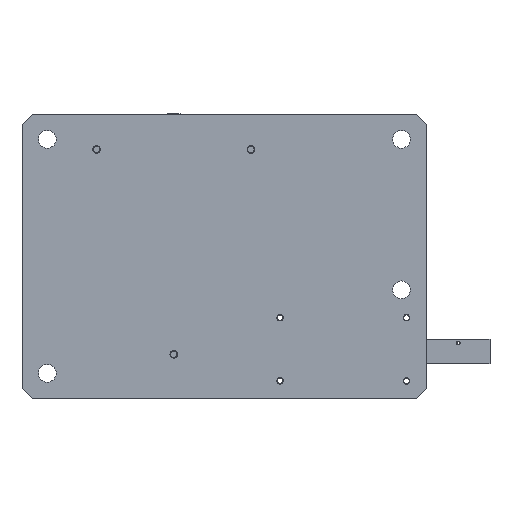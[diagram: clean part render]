
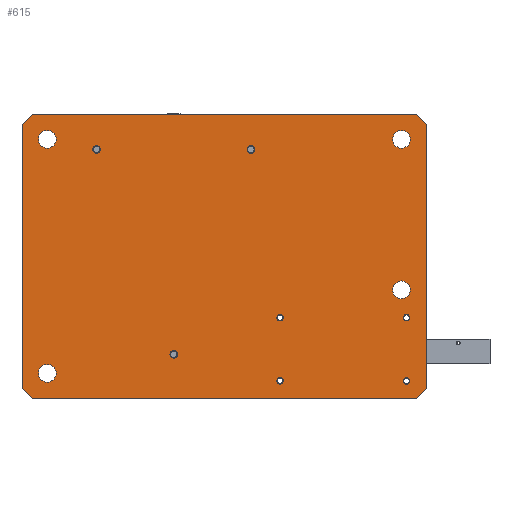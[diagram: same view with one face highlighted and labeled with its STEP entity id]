
A CAD part, front view. The second image highlights one B-rep face of the part: STEP entity #615.
In plain terms, the highlighted planar face has unit normal (0, -1, 0).
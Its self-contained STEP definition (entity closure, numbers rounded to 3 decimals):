
#2=CARTESIAN_POINT('',(44.,0.,-48.5));
#3=DIRECTION('',(0.,1.,0.));
#4=DIRECTION('',(1.,0.,0.));
#5=AXIS2_PLACEMENT_3D('',#2,#3,#4);
#7=CARTESIAN_POINT('',(44.,0.,-48.5));
#8=DIRECTION('',(0.,1.,0.));
#9=DIRECTION('',(-1.,0.,0.));
#10=AXIS2_PLACEMENT_3D('',#7,#8,#9);
#12=CARTESIAN_POINT('',(144.,0.,-48.5));
#13=DIRECTION('',(0.,1.,0.));
#14=DIRECTION('',(1.,0.,0.));
#15=AXIS2_PLACEMENT_3D('',#12,#13,#14);
#17=CARTESIAN_POINT('',(144.,0.,-48.5));
#18=DIRECTION('',(0.,1.,0.));
#19=DIRECTION('',(-1.,0.,0.));
#20=AXIS2_PLACEMENT_3D('',#17,#18,#19);
#22=CARTESIAN_POINT('',(44.,0.,-98.5));
#23=DIRECTION('',(0.,1.,0.));
#24=DIRECTION('',(1.,0.,0.));
#25=AXIS2_PLACEMENT_3D('',#22,#23,#24);
#27=CARTESIAN_POINT('',(44.,0.,-98.5));
#28=DIRECTION('',(0.,1.,0.));
#29=DIRECTION('',(-1.,0.,0.));
#30=AXIS2_PLACEMENT_3D('',#27,#28,#29);
#32=CARTESIAN_POINT('',(144.,0.,-98.5));
#33=DIRECTION('',(0.,1.,0.));
#34=DIRECTION('',(1.,0.,0.));
#35=AXIS2_PLACEMENT_3D('',#32,#33,#34);
#37=CARTESIAN_POINT('',(144.,0.,-98.5));
#38=DIRECTION('',(0.,1.,0.));
#39=DIRECTION('',(-1.,0.,0.));
#40=AXIS2_PLACEMENT_3D('',#37,#38,#39);
#42=CARTESIAN_POINT('',(-40.,0.,-77.5));
#43=DIRECTION('',(0.,1.,0.));
#44=DIRECTION('',(1.,0.,0.));
#45=AXIS2_PLACEMENT_3D('',#42,#43,#44);
#47=CARTESIAN_POINT('',(-40.,0.,-77.5));
#48=DIRECTION('',(0.,1.,0.));
#49=DIRECTION('',(-1.,0.,0.));
#50=AXIS2_PLACEMENT_3D('',#47,#48,#49);
#52=CARTESIAN_POINT('',(-101.,0.,84.5));
#53=DIRECTION('',(0.,1.,0.));
#54=DIRECTION('',(1.,0.,0.));
#55=AXIS2_PLACEMENT_3D('',#52,#53,#54);
#57=CARTESIAN_POINT('',(-101.,0.,84.5));
#58=DIRECTION('',(0.,1.,0.));
#59=DIRECTION('',(-1.,0.,0.));
#60=AXIS2_PLACEMENT_3D('',#57,#58,#59);
#62=CARTESIAN_POINT('',(21.,0.,84.5));
#63=DIRECTION('',(0.,1.,0.));
#64=DIRECTION('',(1.,0.,0.));
#65=AXIS2_PLACEMENT_3D('',#62,#63,#64);
#67=CARTESIAN_POINT('',(21.,0.,84.5));
#68=DIRECTION('',(0.,1.,0.));
#69=DIRECTION('',(-1.,0.,0.));
#70=AXIS2_PLACEMENT_3D('',#67,#68,#69);
#72=CARTESIAN_POINT('',(-140.,0.,92.5));
#73=DIRECTION('',(0.,1.,0.));
#74=DIRECTION('',(1.,0.,0.));
#75=AXIS2_PLACEMENT_3D('',#72,#73,#74);
#77=CARTESIAN_POINT('',(-140.,0.,92.5));
#78=DIRECTION('',(0.,1.,0.));
#79=DIRECTION('',(-1.,0.,0.));
#80=AXIS2_PLACEMENT_3D('',#77,#78,#79);
#82=CARTESIAN_POINT('',(-140.,0.,-92.5));
#83=DIRECTION('',(0.,1.,0.));
#84=DIRECTION('',(1.,0.,0.));
#85=AXIS2_PLACEMENT_3D('',#82,#83,#84);
#87=CARTESIAN_POINT('',(-140.,0.,-92.5));
#88=DIRECTION('',(0.,1.,0.));
#89=DIRECTION('',(-1.,0.,0.));
#90=AXIS2_PLACEMENT_3D('',#87,#88,#89);
#92=CARTESIAN_POINT('',(140.,0.,-26.5));
#93=DIRECTION('',(0.,1.,0.));
#94=DIRECTION('',(1.,0.,0.));
#95=AXIS2_PLACEMENT_3D('',#92,#93,#94);
#97=CARTESIAN_POINT('',(140.,0.,-26.5));
#98=DIRECTION('',(0.,1.,0.));
#99=DIRECTION('',(-1.,0.,0.));
#100=AXIS2_PLACEMENT_3D('',#97,#98,#99);
#102=CARTESIAN_POINT('',(140.,0.,92.5));
#103=DIRECTION('',(0.,1.,0.));
#104=DIRECTION('',(1.,0.,0.));
#105=AXIS2_PLACEMENT_3D('',#102,#103,#104);
#107=CARTESIAN_POINT('',(140.,0.,92.5));
#108=DIRECTION('',(0.,1.,0.));
#109=DIRECTION('',(-1.,0.,0.));
#110=AXIS2_PLACEMENT_3D('',#107,#108,#109);
#112=DIRECTION('',(-0.707,0.,-0.707));
#113=VECTOR('',#112,11.314);
#114=CARTESIAN_POINT('',(-152.,0.,112.5));
#115=LINE('',#114,#113);
#116=DIRECTION('',(1.,0.,0.));
#117=VECTOR('',#116,304.);
#118=CARTESIAN_POINT('',(-152.,0.,112.5));
#119=LINE('',#118,#117);
#120=DIRECTION('',(-0.707,0.,0.707));
#121=VECTOR('',#120,11.314);
#122=CARTESIAN_POINT('',(160.,0.,104.5));
#123=LINE('',#122,#121);
#124=DIRECTION('',(0.,0.,-1.));
#125=VECTOR('',#124,209.);
#126=CARTESIAN_POINT('',(160.,0.,104.5));
#127=LINE('',#126,#125);
#128=DIRECTION('',(0.707,0.,0.707));
#129=VECTOR('',#128,11.314);
#130=CARTESIAN_POINT('',(152.,0.,-112.5));
#131=LINE('',#130,#129);
#132=DIRECTION('',(-1.,0.,0.));
#133=VECTOR('',#132,304.);
#134=CARTESIAN_POINT('',(152.,0.,-112.5));
#135=LINE('',#134,#133);
#136=DIRECTION('',(0.707,0.,-0.707));
#137=VECTOR('',#136,11.314);
#138=CARTESIAN_POINT('',(-160.,0.,-104.5));
#139=LINE('',#138,#137);
#140=DIRECTION('',(0.,0.,1.));
#141=VECTOR('',#140,209.);
#142=CARTESIAN_POINT('',(-160.,0.,-104.5));
#143=LINE('',#142,#141);
#406=CARTESIAN_POINT('',(-152.,0.,112.5));
#407=CARTESIAN_POINT('',(-160.,0.,104.5));
#408=VERTEX_POINT('',#406);
#409=VERTEX_POINT('',#407);
#414=CARTESIAN_POINT('',(160.,0.,104.5));
#415=CARTESIAN_POINT('',(152.,0.,112.5));
#416=VERTEX_POINT('',#414);
#417=VERTEX_POINT('',#415);
#422=CARTESIAN_POINT('',(152.,0.,-112.5));
#423=CARTESIAN_POINT('',(160.,0.,-104.5));
#424=VERTEX_POINT('',#422);
#425=VERTEX_POINT('',#423);
#430=CARTESIAN_POINT('',(-160.,0.,-104.5));
#431=CARTESIAN_POINT('',(-152.,0.,-112.5));
#432=VERTEX_POINT('',#430);
#433=VERTEX_POINT('',#431);
#438=CARTESIAN_POINT('',(46.15,0.,-48.5));
#439=CARTESIAN_POINT('',(41.85,0.,-48.5));
#440=VERTEX_POINT('',#438);
#441=VERTEX_POINT('',#439);
#442=CARTESIAN_POINT('',(146.15,0.,-48.5));
#443=CARTESIAN_POINT('',(141.85,0.,-48.5));
#444=VERTEX_POINT('',#442);
#445=VERTEX_POINT('',#443);
#446=CARTESIAN_POINT('',(46.15,0.,-98.5));
#447=CARTESIAN_POINT('',(41.85,0.,-98.5));
#448=VERTEX_POINT('',#446);
#449=VERTEX_POINT('',#447);
#450=CARTESIAN_POINT('',(146.15,0.,-98.5));
#451=CARTESIAN_POINT('',(141.85,0.,-98.5));
#452=VERTEX_POINT('',#450);
#453=VERTEX_POINT('',#451);
#470=CARTESIAN_POINT('',(-37.45,0.,-77.5));
#471=CARTESIAN_POINT('',(-42.55,0.,-77.5));
#472=VERTEX_POINT('',#470);
#473=VERTEX_POINT('',#471);
#474=CARTESIAN_POINT('',(-98.45,0.,84.5));
#475=CARTESIAN_POINT('',(-103.55,0.,84.5));
#476=VERTEX_POINT('',#474);
#477=VERTEX_POINT('',#475);
#478=CARTESIAN_POINT('',(23.55,0.,84.5));
#479=CARTESIAN_POINT('',(18.45,0.,84.5));
#480=VERTEX_POINT('',#478);
#481=VERTEX_POINT('',#479);
#494=CARTESIAN_POINT('',(-133.,0.,92.5));
#495=CARTESIAN_POINT('',(-147.,0.,92.5));
#496=VERTEX_POINT('',#494);
#497=VERTEX_POINT('',#495);
#498=CARTESIAN_POINT('',(-133.,0.,-92.5));
#499=CARTESIAN_POINT('',(-147.,0.,-92.5));
#500=VERTEX_POINT('',#498);
#501=VERTEX_POINT('',#499);
#502=CARTESIAN_POINT('',(147.,0.,-26.5));
#503=CARTESIAN_POINT('',(133.,0.,-26.5));
#504=VERTEX_POINT('',#502);
#505=VERTEX_POINT('',#503);
#506=CARTESIAN_POINT('',(147.,0.,92.5));
#507=CARTESIAN_POINT('',(133.,0.,92.5));
#508=VERTEX_POINT('',#506);
#509=VERTEX_POINT('',#507);
#526=CARTESIAN_POINT('',(0.,0.,0.));
#527=DIRECTION('',(0.,1.,0.));
#528=DIRECTION('',(1.,0.,0.));
#529=AXIS2_PLACEMENT_3D('',#526,#527,#528);
#530=PLANE('',#529);
#532=ORIENTED_EDGE('',*,*,#531,.F.);
#534=ORIENTED_EDGE('',*,*,#533,.T.);
#536=ORIENTED_EDGE('',*,*,#535,.F.);
#538=ORIENTED_EDGE('',*,*,#537,.T.);
#540=ORIENTED_EDGE('',*,*,#539,.F.);
#542=ORIENTED_EDGE('',*,*,#541,.T.);
#544=ORIENTED_EDGE('',*,*,#543,.F.);
#546=ORIENTED_EDGE('',*,*,#545,.T.);
#547=EDGE_LOOP('',(#532,#534,#536,#538,#540,#542,#544,#546));
#548=FACE_OUTER_BOUND('',#547,.F.);
#550=ORIENTED_EDGE('',*,*,#549,.F.);
#552=ORIENTED_EDGE('',*,*,#551,.F.);
#553=EDGE_LOOP('',(#550,#552));
#554=FACE_BOUND('',#553,.F.);
#556=ORIENTED_EDGE('',*,*,#555,.F.);
#558=ORIENTED_EDGE('',*,*,#557,.F.);
#559=EDGE_LOOP('',(#556,#558));
#560=FACE_BOUND('',#559,.F.);
#562=ORIENTED_EDGE('',*,*,#561,.F.);
#564=ORIENTED_EDGE('',*,*,#563,.F.);
#565=EDGE_LOOP('',(#562,#564));
#566=FACE_BOUND('',#565,.F.);
#568=ORIENTED_EDGE('',*,*,#567,.F.);
#570=ORIENTED_EDGE('',*,*,#569,.F.);
#571=EDGE_LOOP('',(#568,#570));
#572=FACE_BOUND('',#571,.F.);
#574=ORIENTED_EDGE('',*,*,#573,.F.);
#576=ORIENTED_EDGE('',*,*,#575,.F.);
#577=EDGE_LOOP('',(#574,#576));
#578=FACE_BOUND('',#577,.F.);
#580=ORIENTED_EDGE('',*,*,#579,.F.);
#582=ORIENTED_EDGE('',*,*,#581,.F.);
#583=EDGE_LOOP('',(#580,#582));
#584=FACE_BOUND('',#583,.F.);
#586=ORIENTED_EDGE('',*,*,#585,.F.);
#588=ORIENTED_EDGE('',*,*,#587,.F.);
#589=EDGE_LOOP('',(#586,#588));
#590=FACE_BOUND('',#589,.F.);
#592=ORIENTED_EDGE('',*,*,#591,.F.);
#594=ORIENTED_EDGE('',*,*,#593,.F.);
#595=EDGE_LOOP('',(#592,#594));
#596=FACE_BOUND('',#595,.F.);
#598=ORIENTED_EDGE('',*,*,#597,.F.);
#600=ORIENTED_EDGE('',*,*,#599,.F.);
#601=EDGE_LOOP('',(#598,#600));
#602=FACE_BOUND('',#601,.F.);
#604=ORIENTED_EDGE('',*,*,#603,.F.);
#606=ORIENTED_EDGE('',*,*,#605,.F.);
#607=EDGE_LOOP('',(#604,#606));
#608=FACE_BOUND('',#607,.F.);
#610=ORIENTED_EDGE('',*,*,#609,.F.);
#612=ORIENTED_EDGE('',*,*,#611,.F.);
#613=EDGE_LOOP('',(#610,#612));
#614=FACE_BOUND('',#613,.F.);
#615=ADVANCED_FACE('',(#548,#554,#560,#566,#572,#578,#584,#590,#596,#602,#608,
#614),#530,.F.);
#6=CIRCLE('',#5,2.15);
#11=CIRCLE('',#10,2.15);
#16=CIRCLE('',#15,2.15);
#21=CIRCLE('',#20,2.15);
#26=CIRCLE('',#25,2.15);
#31=CIRCLE('',#30,2.15);
#36=CIRCLE('',#35,2.15);
#41=CIRCLE('',#40,2.15);
#46=CIRCLE('',#45,2.55);
#51=CIRCLE('',#50,2.55);
#56=CIRCLE('',#55,2.55);
#61=CIRCLE('',#60,2.55);
#66=CIRCLE('',#65,2.55);
#71=CIRCLE('',#70,2.55);
#76=CIRCLE('',#75,7.);
#81=CIRCLE('',#80,7.);
#86=CIRCLE('',#85,7.);
#91=CIRCLE('',#90,7.);
#96=CIRCLE('',#95,7.);
#101=CIRCLE('',#100,7.);
#106=CIRCLE('',#105,7.);
#111=CIRCLE('',#110,7.);
#531=EDGE_CURVE('',#408,#409,#115,.T.);
#533=EDGE_CURVE('',#408,#417,#119,.T.);
#535=EDGE_CURVE('',#416,#417,#123,.T.);
#537=EDGE_CURVE('',#416,#425,#127,.T.);
#539=EDGE_CURVE('',#424,#425,#131,.T.);
#541=EDGE_CURVE('',#424,#433,#135,.T.);
#543=EDGE_CURVE('',#432,#433,#139,.T.);
#545=EDGE_CURVE('',#432,#409,#143,.T.);
#549=EDGE_CURVE('',#444,#445,#16,.T.);
#551=EDGE_CURVE('',#445,#444,#21,.T.);
#555=EDGE_CURVE('',#448,#449,#26,.T.);
#557=EDGE_CURVE('',#449,#448,#31,.T.);
#561=EDGE_CURVE('',#452,#453,#36,.T.);
#563=EDGE_CURVE('',#453,#452,#41,.T.);
#567=EDGE_CURVE('',#472,#473,#46,.T.);
#569=EDGE_CURVE('',#473,#472,#51,.T.);
#573=EDGE_CURVE('',#476,#477,#56,.T.);
#575=EDGE_CURVE('',#477,#476,#61,.T.);
#579=EDGE_CURVE('',#480,#481,#66,.T.);
#581=EDGE_CURVE('',#481,#480,#71,.T.);
#585=EDGE_CURVE('',#496,#497,#76,.T.);
#587=EDGE_CURVE('',#497,#496,#81,.T.);
#591=EDGE_CURVE('',#500,#501,#86,.T.);
#593=EDGE_CURVE('',#501,#500,#91,.T.);
#597=EDGE_CURVE('',#504,#505,#96,.T.);
#599=EDGE_CURVE('',#505,#504,#101,.T.);
#603=EDGE_CURVE('',#508,#509,#106,.T.);
#605=EDGE_CURVE('',#509,#508,#111,.T.);
#609=EDGE_CURVE('',#440,#441,#6,.T.);
#611=EDGE_CURVE('',#441,#440,#11,.T.);
